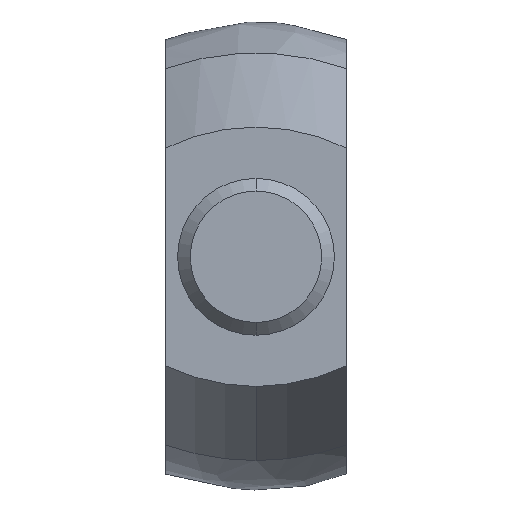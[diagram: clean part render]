
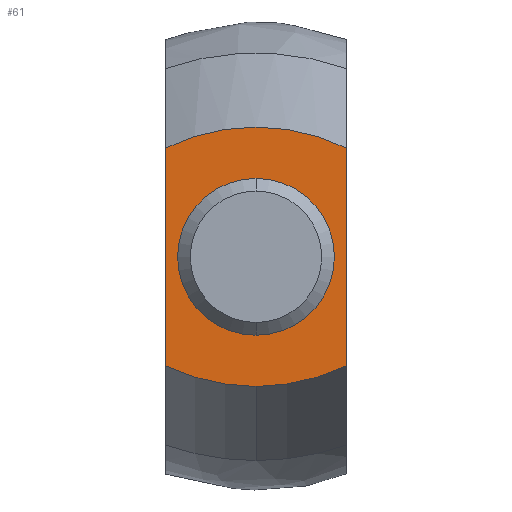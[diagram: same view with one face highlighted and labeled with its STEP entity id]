
A CAD part, front view. The second image highlights one B-rep face of the part: STEP entity #61.
In plain terms, the highlighted planar face has unit normal (0, -1, 0).
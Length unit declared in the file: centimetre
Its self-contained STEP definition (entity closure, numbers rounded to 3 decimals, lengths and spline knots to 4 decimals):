
#6 = EDGE_CURVE ( 'NONE', #27, #25, #175, .T. ) ;
#10 = VERTEX_POINT ( 'NONE', #233 ) ;
#16 = VERTEX_POINT ( 'NONE', #227 ) ;
#25 = VERTEX_POINT ( 'NONE', #213 ) ;
#27 = VERTEX_POINT ( 'NONE', #212 ) ;
#58 = EDGE_CURVE ( 'NONE', #25, #27, #418, .T. ) ;
#61 = ADVANCED_FACE ( 'NONE', ( #419, #413 ), #412, .T. ) ;
#62 = EDGE_LOOP ( 'NONE', ( #63, #66, #69, #124, #126 ) ) ;
#63 = ORIENTED_EDGE ( 'NONE', *, *, #64, .F. ) ;
#64 = EDGE_CURVE ( 'NONE', #65, #10, #405, .T. ) ;
#65 = VERTEX_POINT ( 'NONE', #407 ) ;
#66 = ORIENTED_EDGE ( 'NONE', *, *, #67, .F. ) ;
#67 = EDGE_CURVE ( 'NONE', #68, #65, #406, .T. ) ;
#68 = VERTEX_POINT ( 'NONE', #457 ) ;
#69 = ORIENTED_EDGE ( 'NONE', *, *, #122, .F. ) ;
#122 = EDGE_CURVE ( 'NONE', #123, #68, #683, .T. ) ;
#123 = VERTEX_POINT ( 'NONE', #685 ) ;
#124 = ORIENTED_EDGE ( 'NONE', *, *, #125, .F. ) ;
#125 = EDGE_CURVE ( 'NONE', #16, #123, #684, .T. ) ;
#126 = ORIENTED_EDGE ( 'NONE', *, *, #504, .F. ) ;
#127 = EDGE_LOOP ( 'NONE', ( #128, #129 ) ) ;
#128 = ORIENTED_EDGE ( 'NONE', *, *, #58, .T. ) ;
#129 = ORIENTED_EDGE ( 'NONE', *, *, #6, .T. ) ;
#175 = CIRCLE ( 'NONE', #190, 0.5 ) ;
#187 = DIRECTION ( 'NONE',  ( 0., 0., 1. ) ) ;
#188 = DIRECTION ( 'NONE',  ( 0., 1., 0. ) ) ;
#189 = CARTESIAN_POINT ( 'NONE',  ( 0., -1.568, 0. ) ) ;
#190 = AXIS2_PLACEMENT_3D ( 'NONE', #189, #188, #187 ) ;
#212 = CARTESIAN_POINT ( 'NONE',  ( 0., -1.568, -0.5 ) ) ;
#213 = CARTESIAN_POINT ( 'NONE',  ( 0., -1.568, 0.5 ) ) ;
#227 = CARTESIAN_POINT ( 'NONE',  ( -0.575, -1.568, -0.6945 ) ) ;
#233 = CARTESIAN_POINT ( 'NONE',  ( 0., -1.568, -0.8268 ) ) ;
#401 = CARTESIAN_POINT ( 'NONE',  ( 0., -1.568, -0.8268 ) ) ;
#402 = CARTESIAN_POINT ( 'NONE',  ( 0.198, -1.568, -0.8268 ) ) ;
#403 = CARTESIAN_POINT ( 'NONE',  ( 0.3921, -1.568, -0.7821 ) ) ;
#404 = CARTESIAN_POINT ( 'NONE',  ( 0.575, -1.568, -0.6945 ) ) ;
#405 =( BOUNDED_CURVE ( )  B_SPLINE_CURVE ( 3, ( #404, #403, #402, #401 ),
 .UNSPECIFIED., .F., .T. ) 
 B_SPLINE_CURVE_WITH_KNOTS ( ( 4, 4 ),
 ( 2.7482, 3.1416 ),
 .UNSPECIFIED. ) 
 CURVE ( )  GEOMETRIC_REPRESENTATION_ITEM ( )  RATIONAL_B_SPLINE_CURVE ( ( 1., 0.987, 0.987, 1. ) ) 
 REPRESENTATION_ITEM ( '' )  );
#406 = LINE ( 'NONE', #460, #459 ) ;
#407 = CARTESIAN_POINT ( 'NONE',  ( 0.575, -1.568, -0.6945 ) ) ;
#408 = DIRECTION ( 'NONE',  ( 0., 0., -1. ) ) ;
#409 = DIRECTION ( 'NONE',  ( 0., -1., 0. ) ) ;
#410 = CARTESIAN_POINT ( 'NONE',  ( 0., -1.568, 0. ) ) ;
#411 = AXIS2_PLACEMENT_3D ( 'NONE', #410, #409, #408 ) ;
#412 = PLANE ( 'NONE',  #411 ) ;
#413 = FACE_BOUND ( 'NONE', #127, .T. ) ;
#414 = DIRECTION ( 'NONE',  ( 0., 0., 1. ) ) ;
#415 = DIRECTION ( 'NONE',  ( 0., 1., 0. ) ) ;
#416 = CARTESIAN_POINT ( 'NONE',  ( 0., -1.568, 0. ) ) ;
#417 = AXIS2_PLACEMENT_3D ( 'NONE', #416, #415, #414 ) ;
#418 = CIRCLE ( 'NONE', #417, 0.5 ) ;
#419 = FACE_OUTER_BOUND ( 'NONE', #62, .T. ) ;
#457 = CARTESIAN_POINT ( 'NONE',  ( 0.575, -1.568, 0.6945 ) ) ;
#458 = DIRECTION ( 'NONE',  ( 0., 0., -1. ) ) ;
#459 = VECTOR ( 'NONE', #458, 100. ) ;
#460 = CARTESIAN_POINT ( 'NONE',  ( 0.575, -1.568, 0. ) ) ;
#504 = EDGE_CURVE ( 'NONE', #10, #16, #839, .T. ) ;
#676 = DIRECTION ( 'NONE',  ( 0., 0., 1. ) ) ;
#677 = VECTOR ( 'NONE', #676, 100. ) ;
#678 = CARTESIAN_POINT ( 'NONE',  ( -0.575, -1.568, 0. ) ) ;
#679 = CARTESIAN_POINT ( 'NONE',  ( 0.575, -1.568, 0.6945 ) ) ;
#680 = CARTESIAN_POINT ( 'NONE',  ( 0.202, -1.568, 0.8732 ) ) ;
#681 = CARTESIAN_POINT ( 'NONE',  ( -0.202, -1.568, 0.8732 ) ) ;
#682 = CARTESIAN_POINT ( 'NONE',  ( -0.575, -1.568, 0.6945 ) ) ;
#683 =( BOUNDED_CURVE ( )  B_SPLINE_CURVE ( 3, ( #682, #681, #680, #679 ),
 .UNSPECIFIED., .F., .T. ) 
 B_SPLINE_CURVE_WITH_KNOTS ( ( 4, 4 ),
 ( 2.7482, 3.535 ),
 .UNSPECIFIED. ) 
 CURVE ( )  GEOMETRIC_REPRESENTATION_ITEM ( )  RATIONAL_B_SPLINE_CURVE ( ( 1., 0.949, 0.949, 1. ) ) 
 REPRESENTATION_ITEM ( '' )  );
#684 = LINE ( 'NONE', #678, #677 ) ;
#685 = CARTESIAN_POINT ( 'NONE',  ( -0.575, -1.568, 0.6945 ) ) ;
#834 = CARTESIAN_POINT ( 'NONE',  ( -0.575, -1.568, -0.6945 ) ) ;
#835 = CARTESIAN_POINT ( 'NONE',  ( -0.3921, -1.568, -0.7821 ) ) ;
#836 = CARTESIAN_POINT ( 'NONE',  ( -0.198, -1.568, -0.8268 ) ) ;
#837 = CARTESIAN_POINT ( 'NONE',  ( 0., -1.568, -0.8268 ) ) ;
#839 =( BOUNDED_CURVE ( )  B_SPLINE_CURVE ( 3, ( #837, #836, #835, #834 ),
 .UNSPECIFIED., .F., .T. ) 
 B_SPLINE_CURVE_WITH_KNOTS ( ( 4, 4 ),
 ( 3.1416, 3.535 ),
 .UNSPECIFIED. ) 
 CURVE ( )  GEOMETRIC_REPRESENTATION_ITEM ( )  RATIONAL_B_SPLINE_CURVE ( ( 1., 0.987, 0.987, 1. ) ) 
 REPRESENTATION_ITEM ( '' )  );
